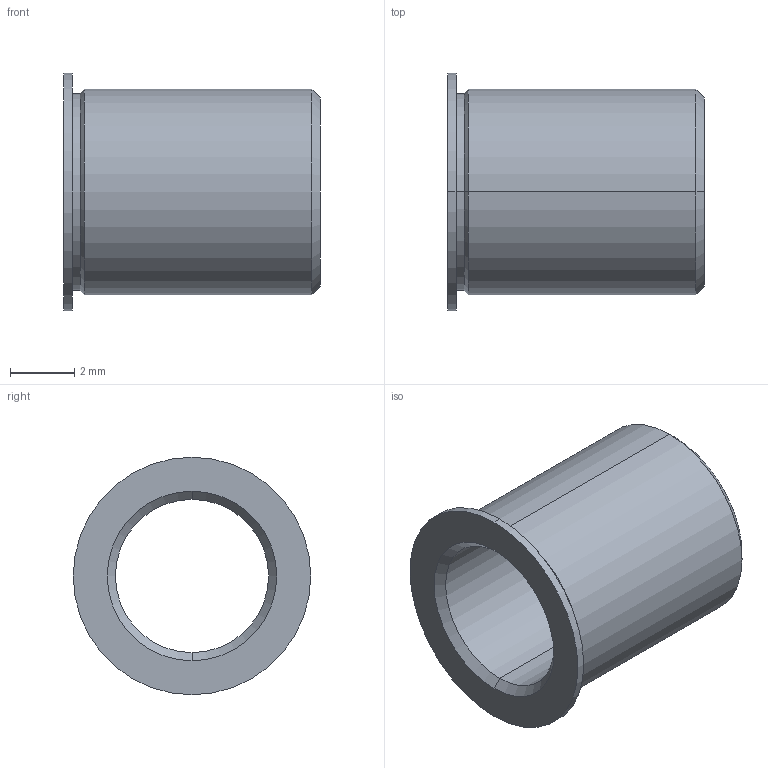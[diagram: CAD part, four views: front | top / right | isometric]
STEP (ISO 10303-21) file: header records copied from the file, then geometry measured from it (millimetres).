
FILE_DESCRIPTION (( 'STEP AP214' ), '1' );
FILE_NAME ('TB187-100-313.STEP', '2013-02-13T15:00:16', ( 'workpc' ), ( 'Microsoft' ), 'SwSTEP 2.0', 'SolidWorks 2013', '' );
FILE_SCHEMA (( 'AUTOMOTIVE_DESIGN' ));
Length unit declared in the file: inch
Products named in the file (1): TB187-100-313
Bounding box: 7.95 x 7.37 x 7.37 mm (x, y, z)
Volume: 112.2 mm3; surface area: 324.1 mm2
Topology: 1 solids, 1 shells, 19 faces, 38 edges, 22 vertices
Faces by surface type: cone 8, cylinder 8, plane 3
Entity records: 564 total; most frequent: DIRECTION 100, CARTESIAN_POINT 80, ORIENTED_EDGE 76, AXIS2_PLACEMENT_3D 42, EDGE_CURVE 38, EDGE_LOOP 22, VERTEX_POINT 22, CIRCLE 22
